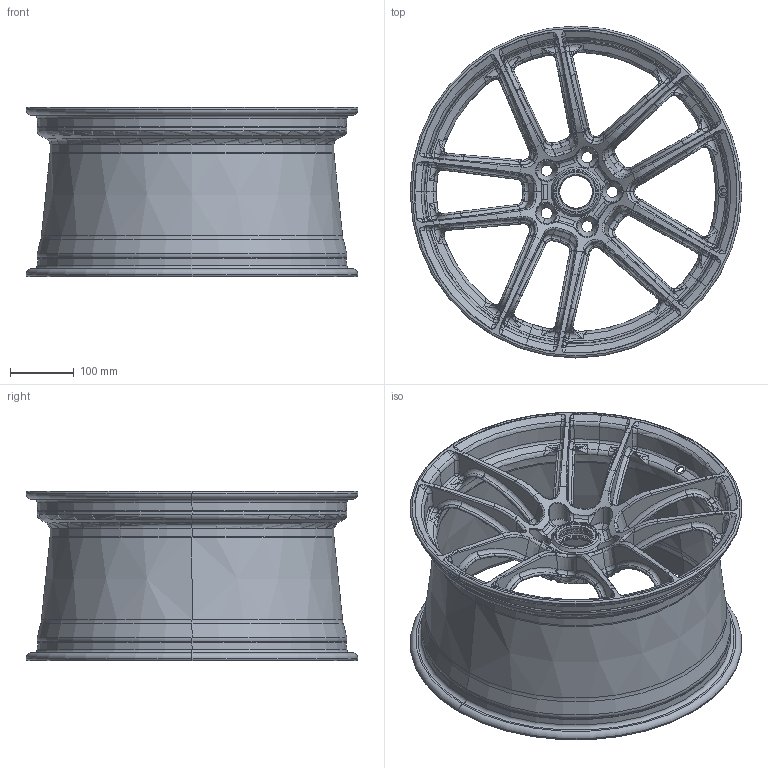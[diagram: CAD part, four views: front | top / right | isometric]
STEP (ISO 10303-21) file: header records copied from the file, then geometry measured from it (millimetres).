
FILE_DESCRIPTION (( 'STEP AP203' ), '1' );
FILE_NAME ('外观不大改情况下轻量化.STEP', '2026-08-19T02:45:56', ( '' ), ( '' ), 'SwSTEP 2.0', 'SolidWorks 2026', '' );
FILE_SCHEMA (( 'CONFIG_CONTROL_DESIGN' ));
Length unit declared in the file: millimetre
Products named in the file (1): 外观不大改情况下轻量化
Bounding box: 522 x 522 x 266 mm (x, y, z)
Volume: 2994270.4 mm3; surface area: 1183453.7 mm2
Topology: 1 solids, 1 shells, 2482 faces, 6223 edges, 3620 vertices
Faces by surface type: bspline 1400, torus 356, cone 218, cylinder 207, sphere 160, plane 141
Entity records: 132120 total; most frequent: CARTESIAN_POINT 86595, ORIENTED_EDGE 12186, EDGE_CURVE 6093, DIRECTION 4919, B_SPLINE_CURVE_WITH_KNOTS 4493, VERTEX_POINT 3600, EDGE_LOOP 2503, FACE_OUTER_BOUND 2482
